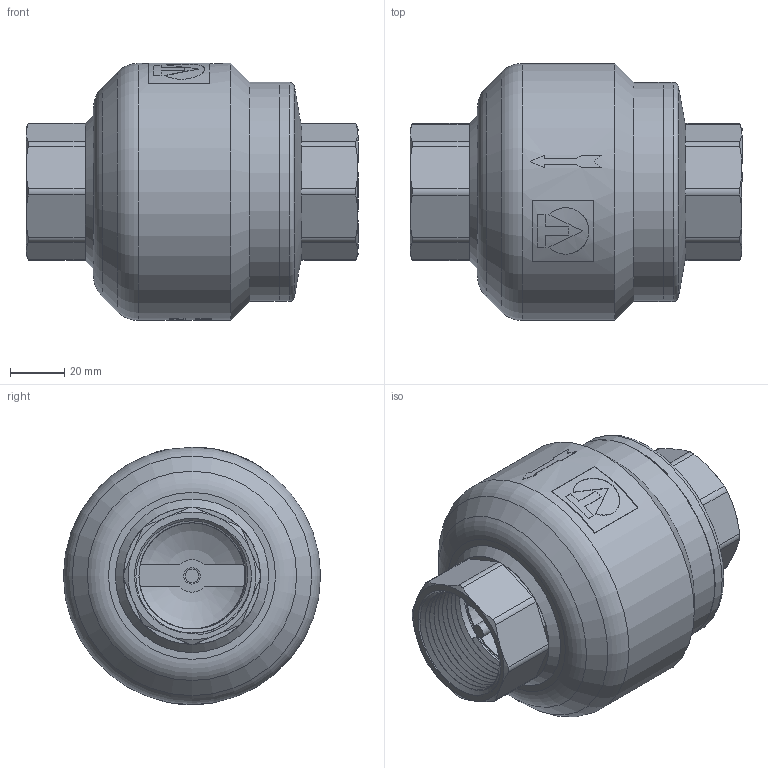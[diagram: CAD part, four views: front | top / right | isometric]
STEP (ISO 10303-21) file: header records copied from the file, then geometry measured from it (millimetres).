
FILE_DESCRIPTION(/* description */ (''),/* implementation_level */ '2;1');
FILE_NAME(/* name */ 'F:\Артём\00000\Работа удаленка\═╝╓╜\VT.202\VT.202.N.07.stp',/* time_stamp */ '2021-04-06T09:35:35+03:00',/* author */ ('almis'),/* organization */ (''),/* preprocessor_version */ 'ST-DEVELOPER v18',/* originating_system */ 'Autodesk Inventor 2020',/* authorisation */ '');
FILE_SCHEMA (('AUTOMOTIVE_DESIGN { 1 0 10303 214 3 1 1 }'));
Length unit declared in the file: millimetre
Products named in the file (1): VT.202.N.07
Bounding box: 122.02 x 94.5 x 94.6 mm (x, y, z)
Volume: 175638.9 mm3; surface area: 93650.8 mm2
Topology: 2 solids, 2 shells, 313 faces, 878 edges, 595 vertices
Faces by surface type: plane 124, cylinder 94, bspline 58, cone 29, torus 6, sphere 2
Full cylindrical faces by diameter (mm): 5 x2, 6 x2, 10 x2, 39 x16, 40 x1, 43.6 x20, 50.378 x1, 63 x1, 80.3 x1, 80.5 x2, 88.5 x1, 94.5 x1
Entity records: 16378 total; most frequent: CARTESIAN_POINT 8725, ORIENTED_EDGE 1756, DIRECTION 1367, EDGE_CURVE 878, VERTEX_POINT 595, AXIS2_PLACEMENT_3D 520, EDGE_LOOP 349, LINE 327
